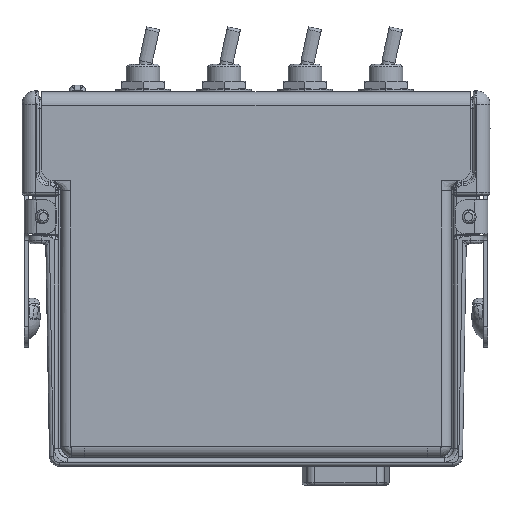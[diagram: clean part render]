
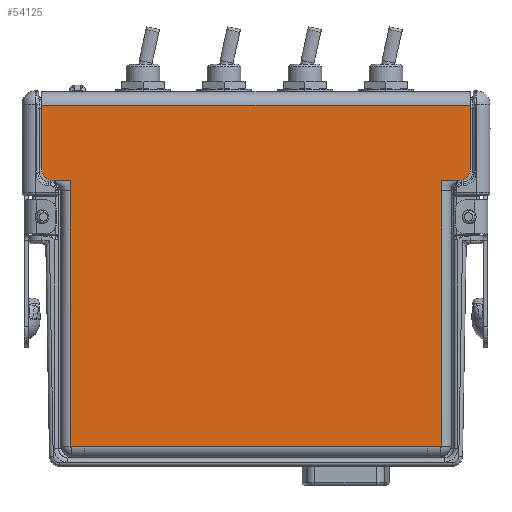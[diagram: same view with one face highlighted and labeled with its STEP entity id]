
A CAD part, left-side view. The second image highlights one B-rep face of the part: STEP entity #54125.
In plain terms, the highlighted planar face has unit normal (-1, 0, 0).
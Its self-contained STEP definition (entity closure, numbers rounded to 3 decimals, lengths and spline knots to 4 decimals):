
#17314=DIRECTION('',(0.,-1.,0.));
#17315=VECTOR('',#17314,3.179);
#17316=CARTESIAN_POINT('',(-0.4475,1.5895,2.676));
#17317=LINE('',#17316,#17315);
#17470=CARTESIAN_POINT('',(-0.4475,1.5095,2.2));
#17471=DIRECTION('',(-1.,0.,0.));
#17472=DIRECTION('',(0.,1.,0.));
#17473=AXIS2_PLACEMENT_3D('',#17470,#17471,#17472);
#17475=DIRECTION('',(0.,-1.,0.));
#17476=VECTOR('',#17475,0.133);
#17477=CARTESIAN_POINT('',(-0.4475,1.5095,2.12));
#17478=LINE('',#17477,#17476);
#17487=DIRECTION('',(0.,0.,-1.));
#17488=VECTOR('',#17487,0.476);
#17489=CARTESIAN_POINT('',(-0.4475,1.5895,2.676));
#17490=LINE('',#17489,#17488);
#17491=DIRECTION('',(0.,0.,1.));
#17492=VECTOR('',#17491,0.476);
#17493=CARTESIAN_POINT('',(-0.4475,-1.5895,2.2));
#17494=LINE('',#17493,#17492);
#17495=DIRECTION('',(0.,0.,1.));
#17496=VECTOR('',#17495,0.079);
#17497=CARTESIAN_POINT('',(-0.4475,-1.3765,2.041));
#17498=LINE('',#17497,#17496);
#17499=DIRECTION('',(0.,-1.,0.));
#17500=VECTOR('',#17499,0.105);
#17501=CARTESIAN_POINT('',(-0.4475,-1.2715,0.146));
#17502=LINE('',#17501,#17500);
#17503=DIRECTION('',(0.,-1.,0.));
#17504=VECTOR('',#17503,0.105);
#17505=CARTESIAN_POINT('',(-0.4475,1.3765,0.146));
#17506=LINE('',#17505,#17504);
#17507=DIRECTION('',(0.,0.,1.));
#17508=VECTOR('',#17507,0.079);
#17509=CARTESIAN_POINT('',(-0.4475,1.3765,2.041));
#17510=LINE('',#17509,#17508);
#17528=CARTESIAN_POINT('',(-0.4475,-1.5095,2.2));
#17529=DIRECTION('',(-1.,0.,0.));
#17530=DIRECTION('',(0.,0.,-1.));
#17531=AXIS2_PLACEMENT_3D('',#17528,#17529,#17530);
#17541=DIRECTION('',(0.,-1.,0.));
#17542=VECTOR('',#17541,0.133);
#17543=CARTESIAN_POINT('',(-0.4475,-1.3765,2.12));
#17544=LINE('',#17543,#17542);
#17576=DIRECTION('',(0.,0.,1.));
#17577=VECTOR('',#17576,1.895);
#17578=CARTESIAN_POINT('',(-0.4475,-1.3765,0.146));
#17579=LINE('',#17578,#17577);
#17767=DIRECTION('',(0.,-1.,0.));
#17768=VECTOR('',#17767,2.543);
#17769=CARTESIAN_POINT('',(-0.4475,1.2715,0.146));
#17770=LINE('',#17769,#17768);
#18960=DIRECTION('',(0.,0.,1.));
#18961=VECTOR('',#18960,1.895);
#18962=CARTESIAN_POINT('',(-0.4475,1.3765,0.146));
#18963=LINE('',#18962,#18961);
#29158=CARTESIAN_POINT('',(-0.4475,-1.5895,2.676));
#29159=VERTEX_POINT('',#29158);
#29160=CARTESIAN_POINT('',(-0.4475,1.5895,2.676));
#29161=VERTEX_POINT('',#29160);
#29190=CARTESIAN_POINT('',(-0.4475,1.2715,0.146));
#29191=CARTESIAN_POINT('',(-0.4475,-1.2715,0.146));
#29192=VERTEX_POINT('',#29190);
#29193=VERTEX_POINT('',#29191);
#29202=CARTESIAN_POINT('',(-0.4475,-1.3765,0.146));
#29203=VERTEX_POINT('',#29202);
#29214=CARTESIAN_POINT('',(-0.4475,1.3765,0.146));
#29215=VERTEX_POINT('',#29214);
#29263=CARTESIAN_POINT('',(-0.4475,1.5095,2.12));
#29265=VERTEX_POINT('',#29263);
#29268=CARTESIAN_POINT('',(-0.4475,1.5895,2.2));
#29269=VERTEX_POINT('',#29268);
#29271=CARTESIAN_POINT('',(-0.4475,-1.5895,2.2));
#29273=VERTEX_POINT('',#29271);
#29276=CARTESIAN_POINT('',(-0.4475,-1.5095,2.12));
#29277=VERTEX_POINT('',#29276);
#29290=CARTESIAN_POINT('',(-0.4475,-1.3765,2.041));
#29291=VERTEX_POINT('',#29290);
#29294=CARTESIAN_POINT('',(-0.4475,-1.3765,2.12));
#29295=VERTEX_POINT('',#29294);
#29302=CARTESIAN_POINT('',(-0.4475,1.3765,2.041));
#29303=CARTESIAN_POINT('',(-0.4475,1.3765,2.12));
#29304=VERTEX_POINT('',#29302);
#29305=VERTEX_POINT('',#29303);
#54093=CARTESIAN_POINT('',(-0.4475,0.,1.421));
#54094=DIRECTION('',(-1.,0.,0.));
#54095=DIRECTION('',(0.,1.,0.));
#54096=AXIS2_PLACEMENT_3D('',#54093,#54094,#54095);
#54097=PLANE('',#54096);
#54098=ORIENTED_EDGE('',*,*,#54074,.F.);
#54100=ORIENTED_EDGE('',*,*,#54099,.F.);
#54101=ORIENTED_EDGE('',*,*,#53926,.T.);
#54103=ORIENTED_EDGE('',*,*,#54102,.F.);
#54105=ORIENTED_EDGE('',*,*,#54104,.F.);
#54107=ORIENTED_EDGE('',*,*,#54106,.F.);
#54109=ORIENTED_EDGE('',*,*,#54108,.F.);
#54111=ORIENTED_EDGE('',*,*,#54110,.F.);
#54113=ORIENTED_EDGE('',*,*,#54112,.F.);
#54115=ORIENTED_EDGE('',*,*,#54114,.F.);
#54117=ORIENTED_EDGE('',*,*,#54116,.F.);
#54119=ORIENTED_EDGE('',*,*,#54118,.T.);
#54121=ORIENTED_EDGE('',*,*,#54120,.T.);
#54122=ORIENTED_EDGE('',*,*,#54085,.F.);
#54123=EDGE_LOOP('',(#54098,#54100,#54101,#54103,#54105,#54107,#54109,#54111,
#54113,#54115,#54117,#54119,#54121,#54122));
#54124=FACE_OUTER_BOUND('',#54123,.F.);
#54125=ADVANCED_FACE('',(#54124),#54097,.T.);
#17474=CIRCLE('',#17473,0.08);
#17532=CIRCLE('',#17531,0.08);
#53926=EDGE_CURVE('',#29161,#29159,#17317,.T.);
#54074=EDGE_CURVE('',#29269,#29265,#17474,.T.);
#54085=EDGE_CURVE('',#29265,#29305,#17478,.T.);
#54099=EDGE_CURVE('',#29161,#29269,#17490,.T.);
#54102=EDGE_CURVE('',#29273,#29159,#17494,.T.);
#54104=EDGE_CURVE('',#29277,#29273,#17532,.T.);
#54106=EDGE_CURVE('',#29295,#29277,#17544,.T.);
#54108=EDGE_CURVE('',#29291,#29295,#17498,.T.);
#54110=EDGE_CURVE('',#29203,#29291,#17579,.T.);
#54112=EDGE_CURVE('',#29193,#29203,#17502,.T.);
#54114=EDGE_CURVE('',#29192,#29193,#17770,.T.);
#54116=EDGE_CURVE('',#29215,#29192,#17506,.T.);
#54118=EDGE_CURVE('',#29215,#29304,#18963,.T.);
#54120=EDGE_CURVE('',#29304,#29305,#17510,.T.);
